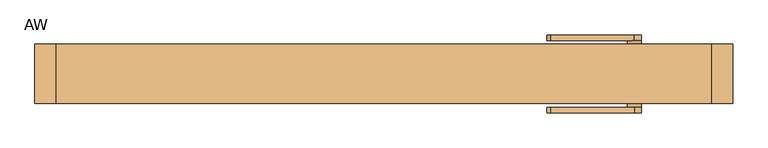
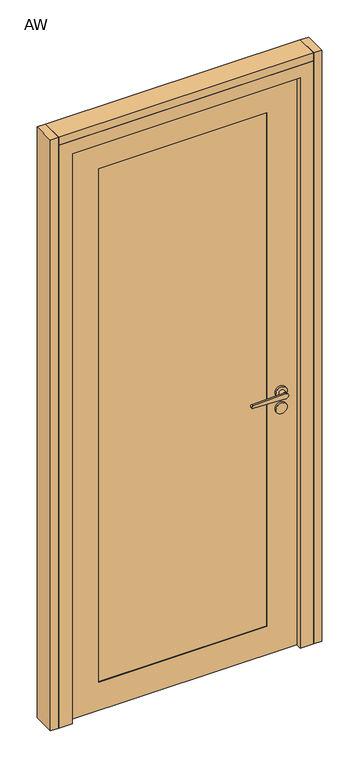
"""IFC4 building model written with IfcOpenShell, lengths in millimetres: door geometry, Mobiliário_Mobiliário de Escritório_Porta de Giro Vidro Duplo com Persiana - AW_Marelli : AW."""

from ifc_helpers import new_model, si_unit, point, frame, frame_2d, origin, origin_with_axes, place, context, project, spatial, polyline, circle_curve, trimmed, segment, composite_curve, outline, extrude, faceted_brep, source, transform, mapped, element, save


def aw_c943b0d2(model_context):
    return source(origin(), model_context, "Body", "SolidModel", [
        extrude(outline(polyline([(-500.0, -42.5), (-500.0, 42.5), (-470.0, 42.5), (-470.0, -42.5), (-500.0, -42.5)])), origin_with_axes(), (0.0, 0.0, 1.0), 2300.0),
        extrude(outline(polyline([(500.0, -42.5), (470.0, -42.5), (470.0, 42.5), (500.0, 42.5), (500.0, -42.5)])), origin_with_axes(), (0.0, 0.0, 1.0), 2300.0),
        extrude(outline(polyline([(2219.5, -419.5), (0.5, -419.5), (0.5, 419.5), (2219.5, 419.5), (2219.5, -419.5)]), holes=[polyline([(110.5, 309.5), (110.5, -309.5), (2109.5, -309.5), (2109.5, 309.5), (110.5, 309.5)])]), frame((0.0, -21.0, 0.0), z_axis=(0.0, 1.0, 0.0), x_axis=(0.0, 0.0, 1.0)), (0.0, 0.0, 1.0), 42.0),
        extrude(outline(polyline([(309.5, -18.5), (-309.5, -18.5), (-309.5, -12.5), (309.5, -12.5), (309.5, -18.5)])), frame((0.0, 0.0, 110.5), z_axis=(0.0, 0.0, 1.0), x_axis=(1.0, 0.0, 0.0)), (0.0, 0.0, 1.0), 1999.0),
        extrude(outline(polyline([(309.5, 18.5), (309.5, 12.5), (-309.5, 12.5), (-309.5, 18.5), (309.5, 18.5)])), frame((0.0, 0.0, 110.5), z_axis=(0.0, 0.0, 1.0), x_axis=(1.0, 0.0, 0.0)), (0.0, 0.0, 1.0), 1999.0),
        extrude(outline(polyline([(309.5, -6.8783978), (-309.5, -6.8783978), (-309.5, 9.1216022), (309.5, 9.1216022), (309.5, -6.8783978)])), frame((0.0, 0.0, 1190.7), z_axis=(0.0, 0.0, 1.0), x_axis=(1.0, 0.0, 0.0)), (0.0, 0.0, 1.0), 0.8),
        extrude(outline(polyline([(309.5, -6.8783978), (-309.5, -6.8783978), (-309.5, 9.1216022), (309.5, 9.1216022), (309.5, -6.8783978)])), frame((0.0, 0.0, 1160.7), z_axis=(0.0, 0.0, 1.0), x_axis=(1.0, 0.0, 0.0)), (0.0, 0.0, 1.0), 0.8),
        extrude(outline(polyline([(309.5, -6.8783978), (-309.5, -6.8783978), (-309.5, 9.1216022), (309.5, 9.1216022), (309.5, -6.8783978)])), frame((0.0, 0.0, 1130.7), z_axis=(0.0, 0.0, 1.0), x_axis=(1.0, 0.0, 0.0)), (0.0, 0.0, 1.0), 0.8),
        extrude(outline(polyline([(309.5, -6.8783978), (-309.5, -6.8783978), (-309.5, 9.1216022), (309.5, 9.1216022), (309.5, -6.8783978)])), frame((0.0, 0.0, 1100.7), z_axis=(0.0, 0.0, 1.0), x_axis=(1.0, 0.0, 0.0)), (0.0, 0.0, 1.0), 0.8),
        extrude(outline(polyline([(309.5, -6.8783978), (-309.5, -6.8783978), (-309.5, 9.1216022), (309.5, 9.1216022), (309.5, -6.8783978)])), frame((0.0, 0.0, 1070.7), z_axis=(0.0, 0.0, 1.0), x_axis=(1.0, 0.0, 0.0)), (0.0, 0.0, 1.0), 0.8),
        extrude(outline(polyline([(309.5, -6.8783978), (-309.5, -6.8783978), (-309.5, 9.1216022), (309.5, 9.1216022), (309.5, -6.8783978)])), frame((0.0, 0.0, 1040.7), z_axis=(0.0, 0.0, 1.0), x_axis=(1.0, 0.0, 0.0)), (0.0, 0.0, 1.0), 0.8),
        extrude(outline(polyline([(309.5, -6.8783978), (-309.5, -6.8783978), (-309.5, 9.1216022), (309.5, 9.1216022), (309.5, -6.8783978)])), frame((0.0, 0.0, 1010.7), z_axis=(0.0, 0.0, 1.0), x_axis=(1.0, 0.0, 0.0)), (0.0, 0.0, 1.0), 0.8),
        extrude(outline(polyline([(309.5, -6.8783978), (-309.5, -6.8783978), (-309.5, 9.1216022), (309.5, 9.1216022), (309.5, -6.8783978)])), frame((0.0, 0.0, 980.7), z_axis=(0.0, 0.0, 1.0), x_axis=(1.0, 0.0, 0.0)), (0.0, 0.0, 1.0), 0.8),
        extrude(outline(polyline([(309.5, -6.8783978), (-309.5, -6.8783978), (-309.5, 9.1216022), (309.5, 9.1216022), (309.5, -6.8783978)])), frame((0.0, 0.0, 950.7), z_axis=(0.0, 0.0, 1.0), x_axis=(1.0, 0.0, 0.0)), (0.0, 0.0, 1.0), 0.8),
        extrude(outline(polyline([(309.5, -6.8783978), (-309.5, -6.8783978), (-309.5, 9.1216022), (309.5, 9.1216022), (309.5, -6.8783978)])), frame((0.0, 0.0, 920.7), z_axis=(0.0, 0.0, 1.0), x_axis=(1.0, 0.0, 0.0)), (0.0, 0.0, 1.0), 0.8),
        extrude(outline(polyline([(309.5, -6.8783978), (-309.5, -6.8783978), (-309.5, 9.1216022), (309.5, 9.1216022), (309.5, -6.8783978)])), frame((0.0, 0.0, 590.7), z_axis=(0.0, 0.0, 1.0), x_axis=(1.0, 0.0, 0.0)), (0.0, 0.0, 1.0), 0.8),
        extrude(outline(polyline([(309.5, -6.8783978), (-309.5, -6.8783978), (-309.5, 9.1216022), (309.5, 9.1216022), (309.5, -6.8783978)])), frame((0.0, 0.0, 620.7), z_axis=(0.0, 0.0, 1.0), x_axis=(1.0, 0.0, 0.0)), (0.0, 0.0, 1.0), 0.8),
        extrude(outline(polyline([(309.5, -6.8783978), (-309.5, -6.8783978), (-309.5, 9.1216022), (309.5, 9.1216022), (309.5, -6.8783978)])), frame((0.0, 0.0, 650.7), z_axis=(0.0, 0.0, 1.0), x_axis=(1.0, 0.0, 0.0)), (0.0, 0.0, 1.0), 0.8),
        extrude(outline(polyline([(309.5, -6.8783978), (-309.5, -6.8783978), (-309.5, 9.1216022), (309.5, 9.1216022), (309.5, -6.8783978)])), frame((0.0, 0.0, 680.7), z_axis=(0.0, 0.0, 1.0), x_axis=(1.0, 0.0, 0.0)), (0.0, 0.0, 1.0), 0.8),
        extrude(outline(polyline([(309.5, -6.8783978), (-309.5, -6.8783978), (-309.5, 9.1216022), (309.5, 9.1216022), (309.5, -6.8783978)])), frame((0.0, 0.0, 710.7), z_axis=(0.0, 0.0, 1.0), x_axis=(1.0, 0.0, 0.0)), (0.0, 0.0, 1.0), 0.8),
        extrude(outline(polyline([(309.5, -6.8783978), (-309.5, -6.8783978), (-309.5, 9.1216022), (309.5, 9.1216022), (309.5, -6.8783978)])), frame((0.0, 0.0, 740.7), z_axis=(0.0, 0.0, 1.0), x_axis=(1.0, 0.0, 0.0)), (0.0, 0.0, 1.0), 0.8),
        extrude(outline(polyline([(309.5, -6.8783978), (-309.5, -6.8783978), (-309.5, 9.1216022), (309.5, 9.1216022), (309.5, -6.8783978)])), frame((0.0, 0.0, 770.7), z_axis=(0.0, 0.0, 1.0), x_axis=(1.0, 0.0, 0.0)), (0.0, 0.0, 1.0), 0.8),
        extrude(outline(polyline([(309.5, -6.8783978), (-309.5, -6.8783978), (-309.5, 9.1216022), (309.5, 9.1216022), (309.5, -6.8783978)])), frame((0.0, 0.0, 800.7), z_axis=(0.0, 0.0, 1.0), x_axis=(1.0, 0.0, 0.0)), (0.0, 0.0, 1.0), 0.8),
        extrude(outline(polyline([(309.5, -6.8783978), (-309.5, -6.8783978), (-309.5, 9.1216022), (309.5, 9.1216022), (309.5, -6.8783978)])), frame((0.0, 0.0, 830.7), z_axis=(0.0, 0.0, 1.0), x_axis=(1.0, 0.0, 0.0)), (0.0, 0.0, 1.0), 0.8),
        extrude(outline(polyline([(309.5, -6.8783978), (-309.5, -6.8783978), (-309.5, 9.1216022), (309.5, 9.1216022), (309.5, -6.8783978)])), frame((0.0, 0.0, 860.7), z_axis=(0.0, 0.0, 1.0), x_axis=(1.0, 0.0, 0.0)), (0.0, 0.0, 1.0), 0.8),
        extrude(outline(polyline([(309.5, -6.8783978), (-309.5, -6.8783978), (-309.5, 9.1216022), (309.5, 9.1216022), (309.5, -6.8783978)])), frame((0.0, 0.0, 890.7), z_axis=(0.0, 0.0, 1.0), x_axis=(1.0, 0.0, 0.0)), (0.0, 0.0, 1.0), 0.8),
        extrude(outline(polyline([(309.5, -6.8783978), (-309.5, -6.8783978), (-309.5, 9.1216022), (309.5, 9.1216022), (309.5, -6.8783978)])), frame((0.0, 0.0, 560.7), z_axis=(0.0, 0.0, 1.0), x_axis=(1.0, 0.0, 0.0)), (0.0, 0.0, 1.0), 0.8),
        extrude(outline(polyline([(309.5, -6.8783978), (-309.5, -6.8783978), (-309.5, 9.1216022), (309.5, 9.1216022), (309.5, -6.8783978)])), frame((0.0, 0.0, 530.7), z_axis=(0.0, 0.0, 1.0), x_axis=(1.0, 0.0, 0.0)), (0.0, 0.0, 1.0), 0.8),
        extrude(outline(polyline([(309.5, -6.8783978), (-309.5, -6.8783978), (-309.5, 9.1216022), (309.5, 9.1216022), (309.5, -6.8783978)])), frame((0.0, 0.0, 500.7), z_axis=(0.0, 0.0, 1.0), x_axis=(1.0, 0.0, 0.0)), (0.0, 0.0, 1.0), 0.8),
        extrude(outline(polyline([(309.5, -6.8783978), (-309.5, -6.8783978), (-309.5, 9.1216022), (309.5, 9.1216022), (309.5, -6.8783978)])), frame((0.0, 0.0, 470.7), z_axis=(0.0, 0.0, 1.0), x_axis=(1.0, 0.0, 0.0)), (0.0, 0.0, 1.0), 0.8),
        extrude(outline(polyline([(309.5, -6.8783978), (-309.5, -6.8783978), (-309.5, 9.1216022), (309.5, 9.1216022), (309.5, -6.8783978)])), frame((0.0, 0.0, 440.7), z_axis=(0.0, 0.0, 1.0), x_axis=(1.0, 0.0, 0.0)), (0.0, 0.0, 1.0), 0.8),
        extrude(outline(polyline([(309.5, -6.8783978), (-309.5, -6.8783978), (-309.5, 9.1216022), (309.5, 9.1216022), (309.5, -6.8783978)])), frame((0.0, 0.0, 290.7), z_axis=(0.0, 0.0, 1.0), x_axis=(1.0, 0.0, 0.0)), (0.0, 0.0, 1.0), 0.8),
        extrude(outline(polyline([(309.5, -6.8783978), (-309.5, -6.8783978), (-309.5, 9.1216022), (309.5, 9.1216022), (309.5, -6.8783978)])), frame((0.0, 0.0, 260.7), z_axis=(0.0, 0.0, 1.0), x_axis=(1.0, 0.0, 0.0)), (0.0, 0.0, 1.0), 0.8),
        extrude(outline(polyline([(309.5, -6.8783978), (-309.5, -6.8783978), (-309.5, 9.1216022), (309.5, 9.1216022), (309.5, -6.8783978)])), frame((0.0, 0.0, 320.7), z_axis=(0.0, 0.0, 1.0), x_axis=(1.0, 0.0, 0.0)), (0.0, 0.0, 1.0), 0.8),
        extrude(outline(polyline([(309.5, -6.8783978), (-309.5, -6.8783978), (-309.5, 9.1216022), (309.5, 9.1216022), (309.5, -6.8783978)])), frame((0.0, 0.0, 350.7), z_axis=(0.0, 0.0, 1.0), x_axis=(1.0, 0.0, 0.0)), (0.0, 0.0, 1.0), 0.8),
        extrude(outline(polyline([(309.5, -6.8783978), (-309.5, -6.8783978), (-309.5, 9.1216022), (309.5, 9.1216022), (309.5, -6.8783978)])), frame((0.0, 0.0, 380.7), z_axis=(0.0, 0.0, 1.0), x_axis=(1.0, 0.0, 0.0)), (0.0, 0.0, 1.0), 0.8),
        extrude(outline(polyline([(309.5, -6.8783978), (-309.5, -6.8783978), (-309.5, 9.1216022), (309.5, 9.1216022), (309.5, -6.8783978)])), frame((0.0, 0.0, 410.7), z_axis=(0.0, 0.0, 1.0), x_axis=(1.0, 0.0, 0.0)), (0.0, 0.0, 1.0), 0.8),
        extrude(outline(polyline([(309.5, -6.8783978), (-309.5, -6.8783978), (-309.5, 9.1216022), (309.5, 9.1216022), (309.5, -6.8783978)])), frame((0.0, 0.0, 230.7), z_axis=(0.0, 0.0, 1.0), x_axis=(1.0, 0.0, 0.0)), (0.0, 0.0, 1.0), 0.8),
        extrude(outline(polyline([(309.5, -6.8783978), (-309.5, -6.8783978), (-309.5, 9.1216022), (309.5, 9.1216022), (309.5, -6.8783978)])), frame((0.0, 0.0, 200.7), z_axis=(0.0, 0.0, 1.0), x_axis=(1.0, 0.0, 0.0)), (0.0, 0.0, 1.0), 0.8),
        extrude(outline(polyline([(309.5, -6.8783978), (-309.5, -6.8783978), (-309.5, 9.1216022), (309.5, 9.1216022), (309.5, -6.8783978)])), frame((0.0, 0.0, 170.7), z_axis=(0.0, 0.0, 1.0), x_axis=(1.0, 0.0, 0.0)), (0.0, 0.0, 1.0), 0.8),
        extrude(outline(polyline([(309.5, -6.8783978), (-309.5, -6.8783978), (-309.5, 9.1216022), (309.5, 9.1216022), (309.5, -6.8783978)])), frame((0.0, 0.0, 110.7), z_axis=(0.0, 0.0, 1.0), x_axis=(1.0, 0.0, 0.0)), (0.0, 0.0, 1.0), 0.8),
        extrude(outline(polyline([(309.5, -6.8783978), (-309.5, -6.8783978), (-309.5, 9.1216022), (309.5, 9.1216022), (309.5, -6.8783978)])), frame((0.0, 0.0, 140.7), z_axis=(0.0, 0.0, 1.0), x_axis=(1.0, 0.0, 0.0)), (0.0, 0.0, 1.0), 0.8),
        extrude(outline(polyline([(309.5, -6.8783978), (-309.5, -6.8783978), (-309.5, 9.1216022), (309.5, 9.1216022), (309.5, -6.8783978)])), frame((0.0, 0.0, 2060.7), z_axis=(0.0, 0.0, 1.0), x_axis=(1.0, 0.0, 0.0)), (0.0, 0.0, 1.0), 0.8),
        extrude(outline(polyline([(309.5, -6.8783978), (-309.5, -6.8783978), (-309.5, 9.1216022), (309.5, 9.1216022), (309.5, -6.8783978)])), frame((0.0, 0.0, 2030.7), z_axis=(0.0, 0.0, 1.0), x_axis=(1.0, 0.0, 0.0)), (0.0, 0.0, 1.0), 0.8),
        extrude(outline(polyline([(309.5, -6.8783978), (-309.5, -6.8783978), (-309.5, 9.1216022), (309.5, 9.1216022), (309.5, -6.8783978)])), frame((0.0, 0.0, 2000.7), z_axis=(0.0, 0.0, 1.0), x_axis=(1.0, 0.0, 0.0)), (0.0, 0.0, 1.0), 0.8),
        extrude(outline(polyline([(309.5, -6.8783978), (-309.5, -6.8783978), (-309.5, 9.1216022), (309.5, 9.1216022), (309.5, -6.8783978)])), frame((0.0, 0.0, 1970.7), z_axis=(0.0, 0.0, 1.0), x_axis=(1.0, 0.0, 0.0)), (0.0, 0.0, 1.0), 0.8),
        extrude(outline(polyline([(309.5, -6.8783978), (-309.5, -6.8783978), (-309.5, 9.1216022), (309.5, 9.1216022), (309.5, -6.8783978)])), frame((0.0, 0.0, 1940.7), z_axis=(0.0, 0.0, 1.0), x_axis=(1.0, 0.0, 0.0)), (0.0, 0.0, 1.0), 0.8),
        extrude(outline(polyline([(309.5, -6.8783978), (-309.5, -6.8783978), (-309.5, 9.1216022), (309.5, 9.1216022), (309.5, -6.8783978)])), frame((0.0, 0.0, 1910.7), z_axis=(0.0, 0.0, 1.0), x_axis=(1.0, 0.0, 0.0)), (0.0, 0.0, 1.0), 0.8),
        extrude(outline(polyline([(309.5, -6.8783978), (-309.5, -6.8783978), (-309.5, 9.1216022), (309.5, 9.1216022), (309.5, -6.8783978)])), frame((0.0, 0.0, 1880.7), z_axis=(0.0, 0.0, 1.0), x_axis=(1.0, 0.0, 0.0)), (0.0, 0.0, 1.0), 0.8),
        extrude(outline(polyline([(309.5, -6.8783978), (-309.5, -6.8783978), (-309.5, 9.1216022), (309.5, 9.1216022), (309.5, -6.8783978)])), frame((0.0, 0.0, 1850.7), z_axis=(0.0, 0.0, 1.0), x_axis=(1.0, 0.0, 0.0)), (0.0, 0.0, 1.0), 0.8),
        extrude(outline(polyline([(309.5, -6.8783978), (-309.5, -6.8783978), (-309.5, 9.1216022), (309.5, 9.1216022), (309.5, -6.8783978)])), frame((0.0, 0.0, 1820.7), z_axis=(0.0, 0.0, 1.0), x_axis=(1.0, 0.0, 0.0)), (0.0, 0.0, 1.0), 0.8),
        extrude(outline(polyline([(309.5, -6.8783978), (-309.5, -6.8783978), (-309.5, 9.1216022), (309.5, 9.1216022), (309.5, -6.8783978)])), frame((0.0, 0.0, 1790.7), z_axis=(0.0, 0.0, 1.0), x_axis=(1.0, 0.0, 0.0)), (0.0, 0.0, 1.0), 0.8),
        extrude(outline(polyline([(309.5, -6.8783978), (-309.5, -6.8783978), (-309.5, 9.1216022), (309.5, 9.1216022), (309.5, -6.8783978)])), frame((0.0, 0.0, 1760.7), z_axis=(0.0, 0.0, 1.0), x_axis=(1.0, 0.0, 0.0)), (0.0, 0.0, 1.0), 0.8),
        extrude(outline(polyline([(309.5, -6.8783978), (-309.5, -6.8783978), (-309.5, 9.1216022), (309.5, 9.1216022), (309.5, -6.8783978)])), frame((0.0, 0.0, 1730.7), z_axis=(0.0, 0.0, 1.0), x_axis=(1.0, 0.0, 0.0)), (0.0, 0.0, 1.0), 0.8),
        extrude(outline(polyline([(309.5, -6.8783978), (-309.5, -6.8783978), (-309.5, 9.1216022), (309.5, 9.1216022), (309.5, -6.8783978)])), frame((0.0, 0.0, 1700.7), z_axis=(0.0, 0.0, 1.0), x_axis=(1.0, 0.0, 0.0)), (0.0, 0.0, 1.0), 0.8),
        extrude(outline(polyline([(309.5, -6.8783978), (-309.5, -6.8783978), (-309.5, 9.1216022), (309.5, 9.1216022), (309.5, -6.8783978)])), frame((0.0, 0.0, 1670.7), z_axis=(0.0, 0.0, 1.0), x_axis=(1.0, 0.0, 0.0)), (0.0, 0.0, 1.0), 0.8),
        extrude(outline(polyline([(309.5, -6.8783978), (-309.5, -6.8783978), (-309.5, 9.1216022), (309.5, 9.1216022), (309.5, -6.8783978)])), frame((0.0, 0.0, 1640.7), z_axis=(0.0, 0.0, 1.0), x_axis=(1.0, 0.0, 0.0)), (0.0, 0.0, 1.0), 0.8),
        extrude(outline(polyline([(309.5, -6.8783978), (-309.5, -6.8783978), (-309.5, 9.1216022), (309.5, 9.1216022), (309.5, -6.8783978)])), frame((0.0, 0.0, 1610.7), z_axis=(0.0, 0.0, 1.0), x_axis=(1.0, 0.0, 0.0)), (0.0, 0.0, 1.0), 0.8),
        extrude(outline(polyline([(309.5, -6.8783978), (-309.5, -6.8783978), (-309.5, 9.1216022), (309.5, 9.1216022), (309.5, -6.8783978)])), frame((0.0, 0.0, 1580.7), z_axis=(0.0, 0.0, 1.0), x_axis=(1.0, 0.0, 0.0)), (0.0, 0.0, 1.0), 0.8),
        extrude(outline(polyline([(309.5, -6.8783978), (-309.5, -6.8783978), (-309.5, 9.1216022), (309.5, 9.1216022), (309.5, -6.8783978)])), frame((0.0, 0.0, 1550.7), z_axis=(0.0, 0.0, 1.0), x_axis=(1.0, 0.0, 0.0)), (0.0, 0.0, 1.0), 0.8),
        extrude(outline(polyline([(309.5, -6.8783978), (-309.5, -6.8783978), (-309.5, 9.1216022), (309.5, 9.1216022), (309.5, -6.8783978)])), frame((0.0, 0.0, 1520.7), z_axis=(0.0, 0.0, 1.0), x_axis=(1.0, 0.0, 0.0)), (0.0, 0.0, 1.0), 0.8),
        extrude(outline(polyline([(309.5, -6.8783978), (-309.5, -6.8783978), (-309.5, 9.1216022), (309.5, 9.1216022), (309.5, -6.8783978)])), frame((0.0, 0.0, 1490.7), z_axis=(0.0, 0.0, 1.0), x_axis=(1.0, 0.0, 0.0)), (0.0, 0.0, 1.0), 0.8),
        extrude(outline(polyline([(309.5, -6.8783978), (-309.5, -6.8783978), (-309.5, 9.1216022), (309.5, 9.1216022), (309.5, -6.8783978)])), frame((0.0, 0.0, 1460.7), z_axis=(0.0, 0.0, 1.0), x_axis=(1.0, 0.0, 0.0)), (0.0, 0.0, 1.0), 0.8),
        extrude(outline(polyline([(309.5, -6.8783978), (-309.5, -6.8783978), (-309.5, 9.1216022), (309.5, 9.1216022), (309.5, -6.8783978)])), frame((0.0, 0.0, 1430.7), z_axis=(0.0, 0.0, 1.0), x_axis=(1.0, 0.0, 0.0)), (0.0, 0.0, 1.0), 0.8),
        extrude(outline(polyline([(309.5, -6.8783978), (-309.5, -6.8783978), (-309.5, 9.1216022), (309.5, 9.1216022), (309.5, -6.8783978)])), frame((0.0, 0.0, 1400.7), z_axis=(0.0, 0.0, 1.0), x_axis=(1.0, 0.0, 0.0)), (0.0, 0.0, 1.0), 0.8),
        extrude(outline(polyline([(309.5, -6.8783978), (-309.5, -6.8783978), (-309.5, 9.1216022), (309.5, 9.1216022), (309.5, -6.8783978)])), frame((0.0, 0.0, 1370.7), z_axis=(0.0, 0.0, 1.0), x_axis=(1.0, 0.0, 0.0)), (0.0, 0.0, 1.0), 0.8),
        extrude(outline(polyline([(309.5, -6.8783978), (-309.5, -6.8783978), (-309.5, 9.1216022), (309.5, 9.1216022), (309.5, -6.8783978)])), frame((0.0, 0.0, 1340.7), z_axis=(0.0, 0.0, 1.0), x_axis=(1.0, 0.0, 0.0)), (0.0, 0.0, 1.0), 0.8),
        extrude(outline(polyline([(309.5, -6.8783978), (-309.5, -6.8783978), (-309.5, 9.1216022), (309.5, 9.1216022), (309.5, -6.8783978)])), frame((0.0, 0.0, 1310.7), z_axis=(0.0, 0.0, 1.0), x_axis=(1.0, 0.0, 0.0)), (0.0, 0.0, 1.0), 0.8),
        extrude(outline(polyline([(309.5, -6.8783978), (-309.5, -6.8783978), (-309.5, 9.1216022), (309.5, 9.1216022), (309.5, -6.8783978)])), frame((0.0, 0.0, 1280.7), z_axis=(0.0, 0.0, 1.0), x_axis=(1.0, 0.0, 0.0)), (0.0, 0.0, 1.0), 0.8),
        extrude(outline(polyline([(309.5, -6.8783978), (-309.5, -6.8783978), (-309.5, 9.1216022), (309.5, 9.1216022), (309.5, -6.8783978)])), frame((0.0, 0.0, 1250.7), z_axis=(0.0, 0.0, 1.0), x_axis=(1.0, 0.0, 0.0)), (0.0, 0.0, 1.0), 0.8),
        extrude(outline(polyline([(309.5, -6.8783978), (-309.5, -6.8783978), (-309.5, 9.1216022), (309.5, 9.1216022), (309.5, -6.8783978)])), frame((0.0, 0.0, 1220.7), z_axis=(0.0, 0.0, 1.0), x_axis=(1.0, 0.0, 0.0)), (0.0, 0.0, 1.0), 0.8),
        extrude(outline(polyline([(470.0, -42.5), (-470.0, -42.5), (-470.0, 42.5), (470.0, 42.5), (470.0, -42.5)])), frame((0.0, 0.0, 2270.0), z_axis=(0.0, 0.0, 1.0), x_axis=(1.0, 0.0, 0.0)), (0.0, 0.0, 1.0), 30.0),
        extrude(outline(polyline([(309.5, -12.5), (-309.5, -12.5), (-309.5, 12.5), (309.5, 12.5), (309.5, -12.5)])), frame((0.0, 0.0, 2076.5), z_axis=(0.0, 0.0, 1.0), x_axis=(1.0, 0.0, 0.0)), (0.0, 0.0, 1.0), 25.0),
        faceted_brep([(-470.0, 42.5, 2270.0), (470.0, 42.5, 2270.0), (470.0, 42.5, 0.0), (390.0, 42.5, 0.0), (390.0, 42.5, 2190.0), (-390.0, 42.5, 2190.0), (-390.0, 42.5, 0.0), (-470.0, 42.5, 0.0), (-470.0, -42.5, 0.0), (-470.0, -42.5, 2270.0), (-390.0, 21.5, 0.0), (-420.0, 21.5, 0.0), (-420.0, -42.5, 0.0), (470.0, -42.5, 0.0), (420.0, -42.5, 0.0), (420.0, 21.5, 0.0), (390.0, 21.5, 0.0), (-390.0, 21.5, 2190.0), (390.0, 21.5, 2190.0), (470.0, -42.5, 2270.0), (420.0, 21.5, 2220.0), (-420.0, 21.5, 2220.0), (-420.0, -42.5, 2220.0), (420.0, -42.5, 2220.0)], [[[0, 1, 2, 3, 4, 5, 6, 7]], [[0, 7, 8, 9]], [[7, 6, 10, 11, 12, 8]], [[2, 13, 14, 15, 16, 3]], [[6, 5, 17, 10]], [[16, 18, 4, 3]], [[19, 13, 2, 1]], [[18, 16, 15, 20, 21, 11, 10, 17]], [[21, 22, 12, 11]], [[14, 23, 20, 15]], [[23, 14, 13, 19, 9, 8, 12, 22]], [[4, 18, 17, 5]], [[22, 21, 20, 23]], [[19, 1, 0, 9]]]),
        extrude(outline(composite_curve([segment(trimmed(circle_curve(frame_2d((1010.0, 359.2)), 20.8), [point((1010.0, 338.4))], [point((1010.0, 380.0))], False, "CARTESIAN"), True, "CONTINUOUS"), segment(trimmed(circle_curve(frame_2d((1010.0, 359.2)), 20.8), [point((1010.0, 380.0))], [point((1010.0, 338.4))], False, "CARTESIAN"), True, "CONTINUOUS")], self_intersect=False)), frame((0.0, -29.0, 0.0), z_axis=(0.0, 1.0, 0.0), x_axis=(0.0, 0.0, 1.0)), (0.0, 0.0, 1.0), 8.0),
        extrude(outline(composite_curve([segment(trimmed(circle_curve(frame_2d((947.58, 359.2)), 20.8), [point((947.58, 338.4))], [point((947.58, 380.0))], False, "CARTESIAN"), True, "CONTINUOUS"), segment(trimmed(circle_curve(frame_2d((947.58, 359.2)), 20.8), [point((947.58, 380.0))], [point((947.58, 338.4))], False, "CARTESIAN"), True, "CONTINUOUS")], self_intersect=False)), frame((0.0, -29.0, 0.0), z_axis=(0.0, 1.0, 0.0), x_axis=(0.0, 0.0, 1.0)), (0.0, 0.0, 1.0), 8.0),
        extrude(outline(composite_curve([segment(trimmed(circle_curve(frame_2d((1010.0, 359.2)), 20.8), [point((1010.0, 338.4))], [point((1010.0, 380.0))], False, "CARTESIAN"), True, "CONTINUOUS"), segment(trimmed(circle_curve(frame_2d((1010.0, 359.2)), 20.8), [point((1010.0, 380.0))], [point((1010.0, 338.4))], False, "CARTESIAN"), True, "CONTINUOUS")], self_intersect=False)), frame((0.0, 21.0, 0.0), z_axis=(0.0, 1.0, 0.0), x_axis=(0.0, 0.0, 1.0)), (0.0, 0.0, 1.0), 8.0),
        extrude(outline(composite_curve([segment(trimmed(circle_curve(frame_2d((947.58, 359.2)), 20.8), [point((947.58, 338.4))], [point((947.58, 380.0))], False, "CARTESIAN"), True, "CONTINUOUS"), segment(trimmed(circle_curve(frame_2d((947.58, 359.2)), 20.8), [point((947.58, 380.0))], [point((947.58, 338.4))], False, "CARTESIAN"), True, "CONTINUOUS")], self_intersect=False)), frame((0.0, 21.0, 0.0), z_axis=(0.0, 1.0, 0.0), x_axis=(0.0, 0.0, 1.0)), (0.0, 0.0, 1.0), 8.0),
        extrude(outline(composite_curve([segment(trimmed(circle_curve(frame_2d((1010.0, 359.2)), 10.0), [point((1000.0, 359.2))], [point((1020.0, 359.2))], False, "CARTESIAN"), True, "CONTINUOUS"), segment(polyline([(1020.0, 359.2), (1014.970724, 239.0650676)]), True, "CONTINUOUS"), segment(trimmed(circle_curve(frame_2d((1010.0145906, 239.0650676)), 4.9561334), [point((1014.970724, 239.0650676))], [point((1005.0584573, 239.0650676))], False, "CARTESIAN"), True, "CONTINUOUS"), segment(polyline([(1005.0584573, 239.0650676), (1000.0, 359.2)]), True, "CONTINUOUS")], self_intersect=False)), frame((0.0, -56.0, 0.0), z_axis=(0.0, 1.0, 0.0), x_axis=(0.0, 0.0, 1.0)), (0.0, 0.0, 1.0), 8.0),
        extrude(outline(composite_curve([segment(trimmed(circle_curve(frame_2d((1010.0, 359.2)), 10.0), [point((1010.0, 349.2))], [point((1010.0, 369.2))], False, "CARTESIAN"), True, "CONTINUOUS"), segment(trimmed(circle_curve(frame_2d((1010.0, 359.2)), 10.0), [point((1010.0, 369.2))], [point((1010.0, 349.2))], False, "CARTESIAN"), True, "CONTINUOUS")], self_intersect=False)), frame((0.0, 29.0, 0.0), z_axis=(0.0, 1.0, 0.0), x_axis=(0.0, 0.0, 1.0)), (0.0, 0.0, 1.0), 19.0),
        extrude(outline(composite_curve([segment(trimmed(circle_curve(frame_2d((1010.0, 359.2)), 10.0), [point((1010.0, 349.2))], [point((1010.0, 369.2))], False, "CARTESIAN"), True, "CONTINUOUS"), segment(trimmed(circle_curve(frame_2d((1010.0, 359.2)), 10.0), [point((1010.0, 369.2))], [point((1010.0, 349.2))], False, "CARTESIAN"), True, "CONTINUOUS")], self_intersect=False)), frame((0.0, -48.0, 0.0), z_axis=(0.0, 1.0, 0.0), x_axis=(0.0, 0.0, 1.0)), (0.0, 0.0, 1.0), 19.0),
        extrude(outline(composite_curve([segment(trimmed(circle_curve(frame_2d((1010.0145906, 239.0650676)), 4.9561334), [point((1014.970724, 239.0650676))], [point((1005.0584573, 239.0650676))], False, "CARTESIAN"), True, "CONTINUOUS"), segment(polyline([(1005.0584573, 239.0650676), (1000.0, 359.2)]), True, "CONTINUOUS"), segment(trimmed(circle_curve(frame_2d((1010.0, 359.2)), 10.0), [point((1000.0, 359.2))], [point((1020.0, 359.2))], False, "CARTESIAN"), True, "CONTINUOUS"), segment(polyline([(1020.0, 359.2), (1014.970724, 239.0650676)]), True, "CONTINUOUS")], self_intersect=False)), frame((0.0, 48.0, 0.0), z_axis=(0.0, 1.0, 0.0), x_axis=(0.0, 0.0, 1.0)), (0.0, 0.0, 1.0), 8.0),
    ])


if __name__ == "__main__":
    model = new_model("IFC4")
    model_context = context("Model", 3, world=origin())
    ifc_project = project(units=[si_unit("LENGTHUNIT", "METRE", prefix="MILLI")], contexts=[model_context])
    site = spatial("IfcSite", under=ifc_project)
    building = spatial("IfcBuilding", under=site)
    placement = place(None, origin())
    aw_shape = aw_c943b0d2(model_context)
    element("IfcDoor", 1, ObjectType="Mobiliário_Mobiliário de Escritório_Porta de Giro Vidro Duplo com Persiana - AW_Marelli : AW", at=placement, inside=building, context=model_context, shape_type="MappedRepresentation", body=[
        mapped(aw_shape, transform((0.0, 0.0, 0.0), x_axis=(1.0, 0.0, 0.0), y_axis=(0.0, 1.0, 0.0), z_axis=(0.0, 0.0, 1.0))),
    ])
    save(model, "model.ifc")
